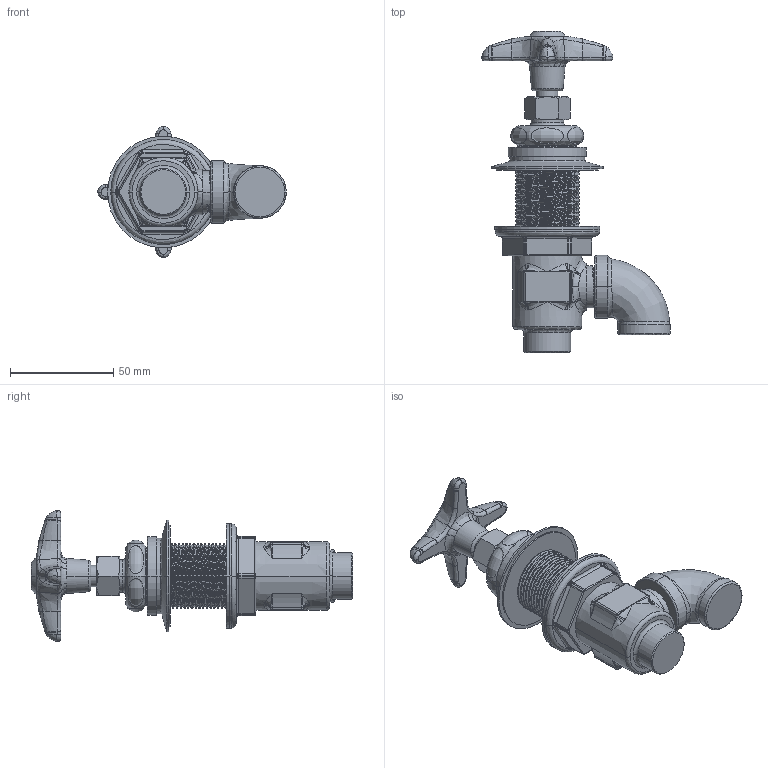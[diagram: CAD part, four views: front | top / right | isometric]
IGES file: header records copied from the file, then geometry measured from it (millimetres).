
Start section:  PTC IGES file: LRV-N4-A1D.igs
Global section: file name: LRV-N4-A1D.igs; native system: Creo Parametric by PTC Inc.; preprocessor: 2014500; author: usch_engrender; organization: Unknown; date: 20160208.165058; units: inch
Bounding box: 91.14 x 155.27 x 63.42 mm (x, y, z)
Surface area: 43125.8 mm2 (no closed solid volume)
Topology: 0 solids, 22 shells, 495 faces, 1187 edges, 711 vertices
Faces by surface type: bspline 273, revolution 222
